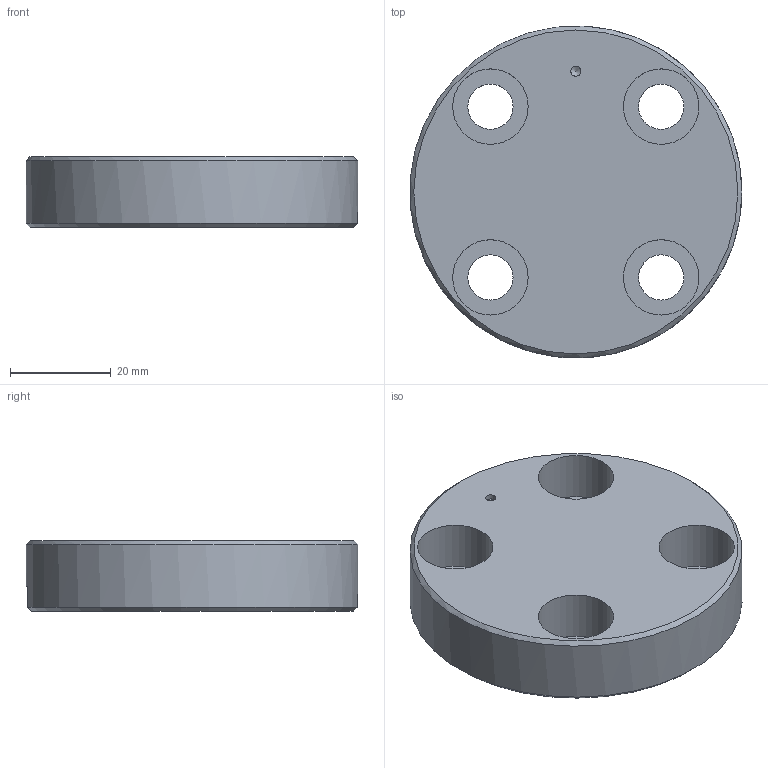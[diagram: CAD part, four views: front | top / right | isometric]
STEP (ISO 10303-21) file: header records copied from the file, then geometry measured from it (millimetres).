
FILE_DESCRIPTION((''),'2;1');
FILE_NAME('K:\Daten\12 Produkte\16 POSIROT\99 Zubehör\121699_Prmag5Z_031_DKunde.stp','2009-03-11T11:27:41',('kamp'),(''),'Autodesk Inventor 2008','Autodesk Inventor 2008','');
FILE_SCHEMA(('AUTOMOTIVE_DESIGN { 1 0 10303 214 1 1 1 1 }'));
Length unit declared in the file: millimetre
Products named in the file (1): 121699_Prmag5Z_031_DKunde
Bounding box: 65.93 x 65.94 x 14 mm (x, y, z)
Volume: 39178.8 mm3; surface area: 11497.8 mm2
Topology: 1 solids, 1 shells, 23 faces, 50 edges, 33 vertices
Faces by surface type: bspline 14, plane 5, cylinder 2, cone 2
Full cylindrical faces by diameter (mm): 66 x1
Entity records: 724 total; most frequent: CARTESIAN_POINT 275, DIRECTION 78, ORIENTED_EDGE 70, EDGE_LOOP 47, AXIS2_PLACEMENT_3D 35, EDGE_CURVE 35, VERTEX_POINT 30, CIRCLE 25
